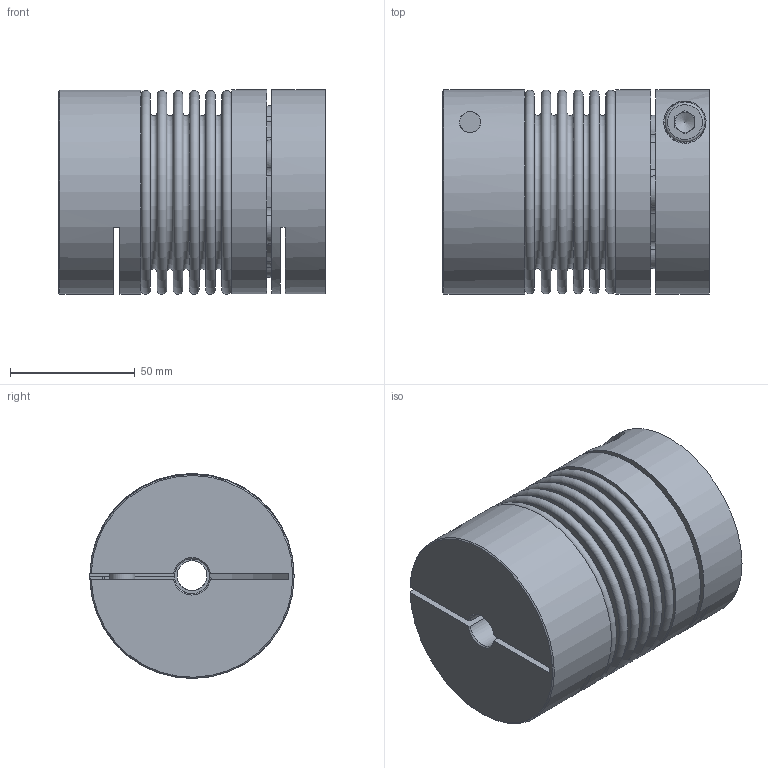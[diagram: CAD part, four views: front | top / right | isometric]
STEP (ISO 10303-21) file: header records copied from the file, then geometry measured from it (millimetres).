
FILE_DESCRIPTION( ( 'Unknown' ), '1' );
FILE_NAME( 'C:/Users/skarpstein/Desktop/KB4P/KB4P/KB4P-80-106.stp', 'Unknown', ( 'Unknown' ), ( 'Unknown' ), 'PSStep 16.0.42', 'Unknown', ' ' );
FILE_SCHEMA( ( 'AUTOMOTIVE_DESIGN { 1 0 10303 214 1 1 1 1 }' ) );
Length unit declared in the file: millimetre
Products named in the file (6): Assem1; KN80-150_Standard_4; Socket Head Cap Screw_DIN_DIN 912 M10 x 30 --- 30N_9; Stecknabe KB4P-80-150; Balgaufnahme KB4P-80-150; BL80-150_Standard_4
Assembly tree (6 placements, depth 2):
  Assem1
    KN80-150_Standard_4
    Socket Head Cap Screw_DIN_DIN 912 M10 x 30 --- 30N_9  x2
    Stecknabe KB4P-80-150
    Balgaufnahme KB4P-80-150
    BL80-150_Standard_4
Bounding box: 107.05 x 82 x 82.3 mm (x, y, z)
Volume: 356979.1 mm3; surface area: 139415.9 mm2
Topology: 6 solids, 6 shells, 186 faces, 425 edges, 279 vertices
Faces by surface type: plane 80, cone 55, torus 26, cylinder 25
Full cylindrical faces by diameter (mm): 8.376 x1, 8.5 x1, 10 x4, 10.5 x1, 12 x1, 14 x1, 16 x2, 17 x2, 70.7 x2, 71.9 x2, 82 x3
Entity records: 6280 total; most frequent: CARTESIAN_POINT 1096, DIRECTION 860, ORIENTED_EDGE 650, AXIS2_PLACEMENT_3D 376, EDGE_CURVE 325, VERTEX_POINT 254, EDGE_LOOP 252, FACE_OUTER_BOUND 207
